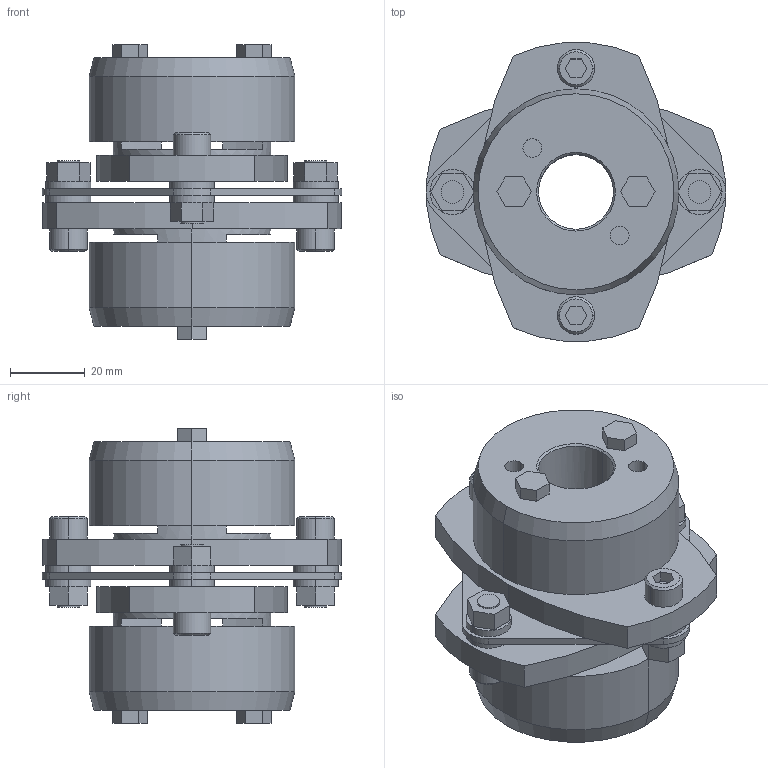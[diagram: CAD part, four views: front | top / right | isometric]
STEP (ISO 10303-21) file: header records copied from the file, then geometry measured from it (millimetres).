
FILE_DESCRIPTION((''),'2;1');
FILE_NAME('LCS-80T7-20×20.stp','2011-09-12T15:15:38',(''),(''),'AutoCAD STEP 2000i','AutoCAD 2000i',', , ');
FILE_SCHEMA(('CONFIG_CONTROL_DESIGN'));
Length unit declared in the file: millimetre
Products named in the file (7): LCS-80T7-19×19; 忣兜1; LC80T7-T019-1; LC80T7-T019; LC80T7-T017-1; LC80T7-T017; LCS80-ITA
Assembly tree (6 placements, depth 2):
  LCS-80T7-19×19
    忣兜1
    LC80T7-T019-1
    LC80T7-T019
    LC80T7-T017-1
    LC80T7-T017
    LCS80-ITA
Bounding box: 80 x 79.95 x 78.75 mm (x, y, z)
Volume: 150333.9 mm3; surface area: 42453.4 mm2
Topology: 1 solids, 1 shells, 218 faces, 532 edges, 348 vertices
Faces by surface type: plane 118, cylinder 80, cone 20
Entity records: 6647 total; most frequent: DIRECTION 1178, CARTESIAN_POINT 1105, ORIENTED_EDGE 1064, EDGE_CURVE 532, AXIS2_PLACEMENT_3D 421, VERTEX_POINT 348, VECTOR 336, LINE 336
